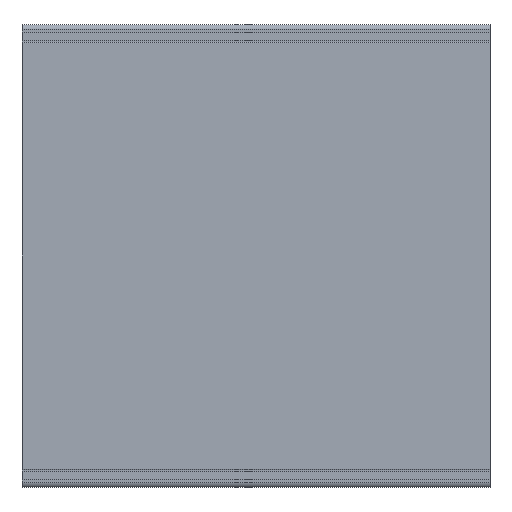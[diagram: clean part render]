
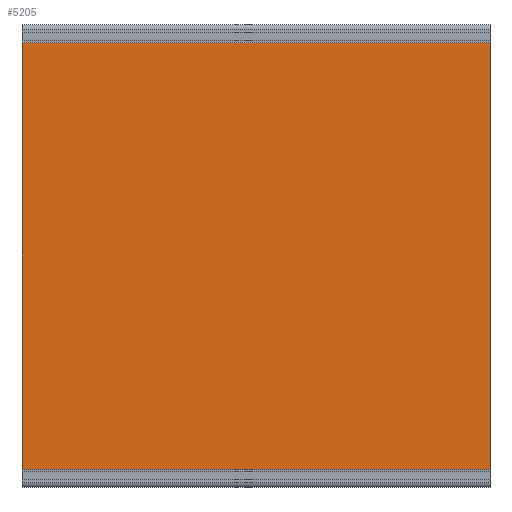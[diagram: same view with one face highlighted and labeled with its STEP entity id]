
A CAD part, front view. The second image highlights one B-rep face of the part: STEP entity #5205.
In plain terms, the highlighted planar face has unit normal (0, -1, 0).
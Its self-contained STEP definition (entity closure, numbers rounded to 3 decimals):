
#80 = CARTESIAN_POINT ( 'NONE',  ( 500., -76.7, -227.6 ) ) ;
#525 = EDGE_CURVE ( 'NONE', #1652, #1912, #3398, .T. ) ;
#639 = CARTESIAN_POINT ( 'NONE',  ( 0., -76.7, -227.6 ) ) ;
#1128 = DIRECTION ( 'NONE',  ( 0., 0., -1. ) ) ;
#1652 = VERTEX_POINT ( 'NONE', #7143 ) ;
#1675 = EDGE_CURVE ( 'NONE', #2636, #1912, #2354, .T. ) ;
#1699 = EDGE_CURVE ( 'NONE', #2422, #2636, #2332, .T. ) ;
#1912 = VERTEX_POINT ( 'NONE', #639 ) ;
#2302 = VECTOR ( 'NONE', #1128, 1000. ) ;
#2332 = LINE ( 'NONE', #80, #2302 ) ;
#2340 = CARTESIAN_POINT ( 'NONE',  ( 500., -76.7, -227.6 ) ) ;
#2349 = EDGE_LOOP ( 'NONE', ( #6703, #6720, #6743, #6750 ) ) ;
#2350 = VECTOR ( 'NONE', #3955, 1000. ) ;
#2354 = LINE ( 'NONE', #3947, #2350 ) ;
#2422 = VERTEX_POINT ( 'NONE', #3066 ) ;
#2636 = VERTEX_POINT ( 'NONE', #2340 ) ;
#3066 = CARTESIAN_POINT ( 'NONE',  ( 500., -76.7, 227.6 ) ) ;
#3313 = FACE_OUTER_BOUND ( 'NONE', #2349, .T. ) ;
#3332 = DIRECTION ( 'NONE',  ( 0., 0., 1. ) ) ;
#3333 = DIRECTION ( 'NONE',  ( 0., 1., 0. ) ) ;
#3391 = VECTOR ( 'NONE', #5422, 1000. ) ;
#3398 = LINE ( 'NONE', #6553, #3391 ) ;
#3947 = CARTESIAN_POINT ( 'NONE',  ( 500., -76.7, -227.6 ) ) ;
#3955 = DIRECTION ( 'NONE',  ( -1., 0., 0. ) ) ;
#4047 = CARTESIAN_POINT ( 'NONE',  ( 500., -76.7, -227.6 ) ) ;
#4400 = EDGE_CURVE ( 'NONE', #2422, #1652, #6464, .T. ) ;
#5205 = ADVANCED_FACE ( 'NONE', ( #3313 ), #6566, .F. ) ;
#5422 = DIRECTION ( 'NONE',  ( 0., 0., -1. ) ) ;
#5803 = DIRECTION ( 'NONE',  ( -1., 0., 0. ) ) ;
#6183 = AXIS2_PLACEMENT_3D ( 'NONE', #4047, #3333, #3332 ) ;
#6464 = LINE ( 'NONE', #6738, #6466 ) ;
#6466 = VECTOR ( 'NONE', #5803, 1000. ) ;
#6553 = CARTESIAN_POINT ( 'NONE',  ( 0., -76.7, -227.6 ) ) ;
#6566 = PLANE ( 'NONE',  #6183 ) ;
#6703 = ORIENTED_EDGE ( 'NONE', *, *, #525, .T. ) ;
#6720 = ORIENTED_EDGE ( 'NONE', *, *, #1675, .F. ) ;
#6738 = CARTESIAN_POINT ( 'NONE',  ( 500., -76.7, 227.6 ) ) ;
#6743 = ORIENTED_EDGE ( 'NONE', *, *, #1699, .F. ) ;
#6750 = ORIENTED_EDGE ( 'NONE', *, *, #4400, .T. ) ;
#7143 = CARTESIAN_POINT ( 'NONE',  ( 0., -76.7, 227.6 ) ) ;
